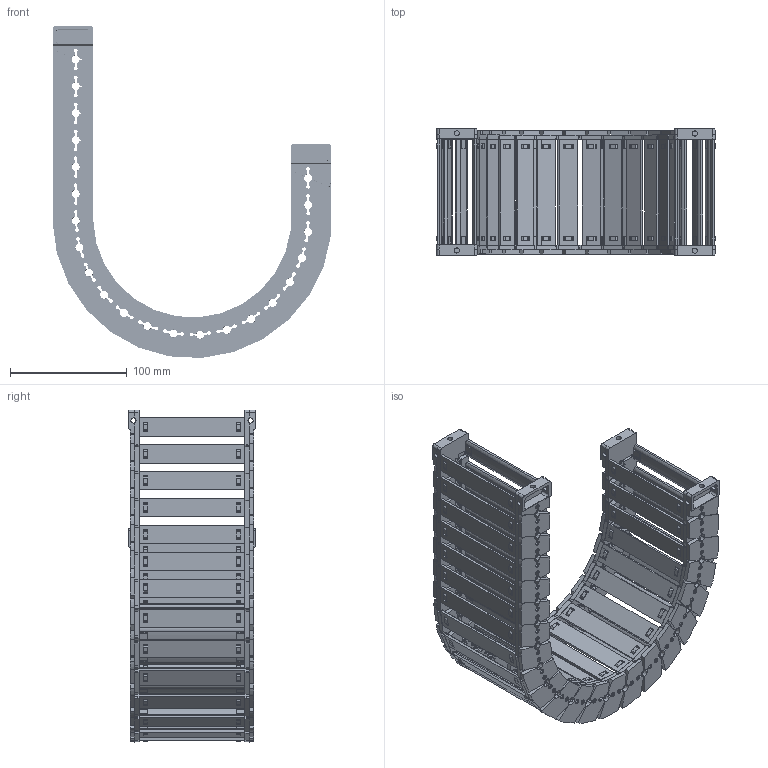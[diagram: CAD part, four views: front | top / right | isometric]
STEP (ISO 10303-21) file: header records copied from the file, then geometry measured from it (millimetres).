
FILE_DESCRIPTION((''),'2;1');
FILE_NAME('JY-28X90-R100_ASM','2026-03-25T19:37:54',('admin'),(''),'CREO PARAMETRIC BY PTC INC, 2021023','CREO PARAMETRIC BY PTC INC, 2021023','');
FILE_SCHEMA(('CONFIG_CONTROL_DESIGN'));
Length unit declared in the file: millimetre
Products named in the file (11): 28XL-L; 25-35XL-YP; 28XL-R; ASM0001_ASM; 28-LTT-A-L; 28-LTT-A-R; 28XL-LTT-A_ASM; 28-LTT-B-L; 28-LTT-B-R; 28XL-LTT-B_ASM; JY-28X90-R100_ASM
Assembly tree (35 placements, depth 3):
  JY-28X90-R100_ASM
    ASM0001_ASM  x21
      28XL-L
      25-35XL-YP
      28XL-R
    28XL-LTT-A_ASM
      28-LTT-A-L
      25-35XL-YP  x2
      28-LTT-A-R
    28XL-LTT-B_ASM
      28-LTT-B-L
      25-35XL-YP  x2
      28-LTT-B-R
Bounding box: 238.21 x 109 x 283.78 mm (x, y, z)
Volume: 445319.7 mm3; surface area: 321084.9 mm2
Topology: 92 solids, 92 shells, 7454 faces, 22156 edges, 14794 vertices
Faces by surface type: plane 4887, cone 1339, cylinder 1072, bspline 156
Entity records: 29119 total; most frequent: CARTESIAN_POINT 9493, ORIENTED_EDGE 4352, DIRECTION 3661, EDGE_CURVE 2176, VERTEX_POINT 1454, VECTOR 1365, LINE 1365, AXIS2_PLACEMENT_3D 1148
